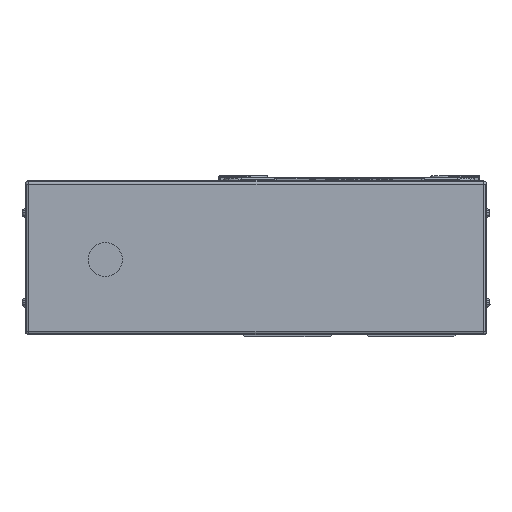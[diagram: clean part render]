
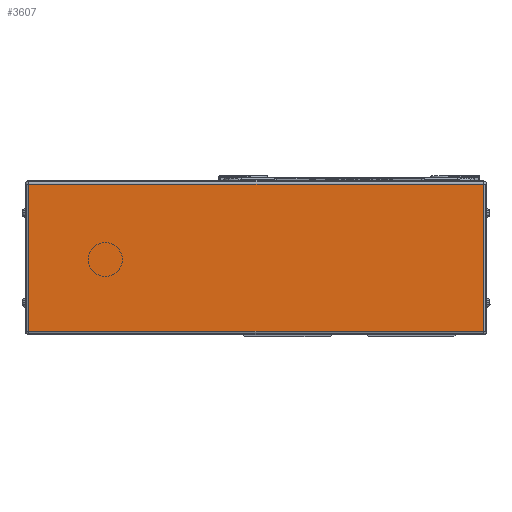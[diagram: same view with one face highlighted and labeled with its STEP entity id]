
A CAD part, left-side view. The second image highlights one B-rep face of the part: STEP entity #3607.
In plain terms, the highlighted planar face has unit normal (-1, 0, 0).
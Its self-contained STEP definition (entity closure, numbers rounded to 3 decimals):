
#3607=ADVANCED_FACE('',(#9770),#9771,.F.);
#9770=FACE_OUTER_BOUND('',#19274,.T.);
#9771=PLANE('',#19275);
#19274=EDGE_LOOP('',(#30347,#30348,#30349,#30350));
#19275=AXIS2_PLACEMENT_3D('',#30351,#30352,#30353);
#30347=ORIENTED_EDGE('',*,*,#56356,.T.);
#30348=ORIENTED_EDGE('',*,*,#56357,.T.);
#30349=ORIENTED_EDGE('',*,*,#56358,.T.);
#30350=ORIENTED_EDGE('',*,*,#56359,.T.);
#30351=CARTESIAN_POINT('',(-45.,180.5,0.));
#30352=DIRECTION('',(1.0,0.,0.));
#30353=DIRECTION('',(0.,0.,1.0));
#56356=EDGE_CURVE('',#67140,#67141,#67142,.T.);
#56357=EDGE_CURVE('',#67141,#67143,#67144,.T.);
#56358=EDGE_CURVE('',#67143,#67145,#67146,.T.);
#56359=EDGE_CURVE('',#67145,#67140,#67147,.T.);
#67140=VERTEX_POINT('',#82550);
#67141=VERTEX_POINT('',#82551);
#67142=LINE('',#82552,#82553);
#67143=VERTEX_POINT('',#82554);
#67144=LINE('',#82555,#82556);
#67145=VERTEX_POINT('',#82557);
#67146=LINE('',#82558,#82559);
#67147=LINE('',#82560,#82561);
#82550=CARTESIAN_POINT('',(-45.,178.5,41.));
#82551=CARTESIAN_POINT('',(-45.,178.5,-41.));
#82552=CARTESIAN_POINT('',(-45.,178.5,0.));
#82553=VECTOR('',#103953,10.0);
#82554=CARTESIAN_POINT('',(-45.,-74.5,-41.));
#82555=CARTESIAN_POINT('',(-45.,180.5,-41.));
#82556=VECTOR('',#103954,10.0);
#82557=CARTESIAN_POINT('',(-45.,-74.5,41.));
#82558=CARTESIAN_POINT('',(-45.,-74.5,0.));
#82559=VECTOR('',#103955,10.0);
#82560=CARTESIAN_POINT('',(-45.,180.5,41.));
#82561=VECTOR('',#103956,10.0);
#103953=DIRECTION('',(0.,0.,-1.0));
#103954=DIRECTION('',(0.,-1.0,0.));
#103955=DIRECTION('',(0.,0.,1.0));
#103956=DIRECTION('',(0.,1.0,0.));
